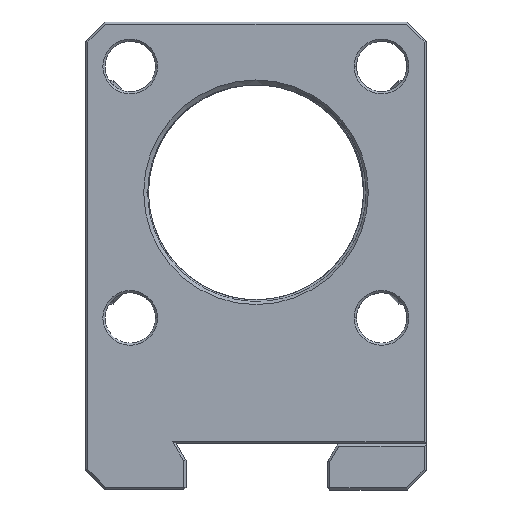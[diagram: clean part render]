
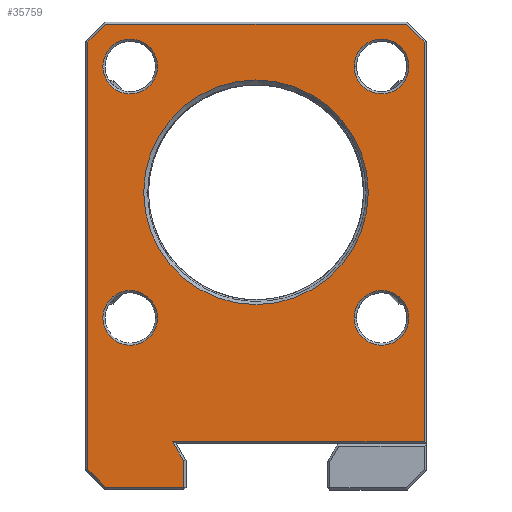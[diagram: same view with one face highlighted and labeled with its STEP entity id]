
A CAD part, top view. The second image highlights one B-rep face of the part: STEP entity #35759.
In plain terms, the highlighted planar face has unit normal (0, 0, 1).
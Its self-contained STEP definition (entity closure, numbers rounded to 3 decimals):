
#18627=DIRECTION('',(0.,1.,0.));
#18628=VECTOR('',#18627,50.999);
#18629=CARTESIAN_POINT('',(-34.514,-19.874,
16.382));
#18630=LINE('',#18629,#18628);
#18639=DIRECTION('',(0.707,-0.707,0.));
#18640=VECTOR('',#18639,3.022);
#18641=CARTESIAN_POINT('',(-34.514,-19.874,
16.382));
#18642=LINE('',#18641,#18640);
#18643=DIRECTION('',(-0.707,-0.707,0.));
#18644=VECTOR('',#18643,3.022);
#18645=CARTESIAN_POINT('',(-32.376,33.262,
16.382));
#18646=LINE('',#18645,#18644);
#18647=DIRECTION('',(-0.707,0.707,0.));
#18648=VECTOR('',#18647,3.022);
#18649=CARTESIAN_POINT('',(5.618,31.125,16.382));
#18650=LINE('',#18649,#18648);
#18651=DIRECTION('',(-0.5,0.866,0.));
#18652=VECTOR('',#18651,2.718);
#18653=CARTESIAN_POINT('',(-23.053,-18.904,
16.382));
#18654=LINE('',#18653,#18652);
#18655=CARTESIAN_POINT('',(0.541,-1.792,
16.382));
#18656=DIRECTION('',(0.,0.,-1.));
#18657=DIRECTION('',(1.,0.,0.));
#18658=AXIS2_PLACEMENT_3D('',#18655,#18656,#18657);
#18660=CARTESIAN_POINT('',(0.541,-1.792,
16.382));
#18661=DIRECTION('',(0.,0.,-1.));
#18662=DIRECTION('',(-1.,0.,0.));
#18663=AXIS2_PLACEMENT_3D('',#18660,#18661,#18662);
#18665=CARTESIAN_POINT('',(-29.459,-1.792,
16.382));
#18666=DIRECTION('',(0.,0.,-1.));
#18667=DIRECTION('',(1.,0.,0.));
#18668=AXIS2_PLACEMENT_3D('',#18665,#18666,#18667);
#18670=CARTESIAN_POINT('',(-29.459,-1.792,
16.382));
#18671=DIRECTION('',(0.,0.,-1.));
#18672=DIRECTION('',(-1.,0.,0.));
#18673=AXIS2_PLACEMENT_3D('',#18670,#18671,#18672);
#18675=CARTESIAN_POINT('',(-29.459,28.208,
16.382));
#18676=DIRECTION('',(0.,0.,-1.));
#18677=DIRECTION('',(1.,0.,0.));
#18678=AXIS2_PLACEMENT_3D('',#18675,#18676,#18677);
#18680=CARTESIAN_POINT('',(-29.459,28.208,
16.382));
#18681=DIRECTION('',(0.,0.,-1.));
#18682=DIRECTION('',(-1.,0.,0.));
#18683=AXIS2_PLACEMENT_3D('',#18680,#18681,#18682);
#18685=CARTESIAN_POINT('',(0.541,28.208,
16.382));
#18686=DIRECTION('',(0.,0.,-1.));
#18687=DIRECTION('',(1.,0.,0.));
#18688=AXIS2_PLACEMENT_3D('',#18685,#18686,#18687);
#18690=CARTESIAN_POINT('',(0.541,28.208,
16.382));
#18691=DIRECTION('',(0.,0.,-1.));
#18692=DIRECTION('',(-1.,0.,0.));
#18693=AXIS2_PLACEMENT_3D('',#18690,#18691,#18692);
#18695=CARTESIAN_POINT('',(-14.448,13.196,
16.382));
#18696=DIRECTION('',(0.,0.,-1.));
#18697=DIRECTION('',(1.,0.,0.));
#18698=AXIS2_PLACEMENT_3D('',#18695,#18696,#18697);
#18700=CARTESIAN_POINT('',(-14.448,13.196,
16.382));
#18701=DIRECTION('',(0.,0.,-1.));
#18702=DIRECTION('',(-1.,0.,0.));
#18703=AXIS2_PLACEMENT_3D('',#18700,#18701,#18702);
#18705=DIRECTION('',(0.,-1.,0.));
#18706=VECTOR('',#18705,3.107);
#18707=CARTESIAN_POINT('',(-23.053,-18.904,
16.382));
#18708=LINE('',#18707,#18706);
#18729=DIRECTION('',(-1.,0.,0.));
#18730=VECTOR('',#18729,9.323);
#18731=CARTESIAN_POINT('',(-23.053,-22.011,
16.382));
#18732=LINE('',#18731,#18730);
#18749=DIRECTION('',(-1.,0.,0.));
#18750=VECTOR('',#18749,30.031);
#18751=CARTESIAN_POINT('',(5.618,-16.55,
16.382));
#18752=LINE('',#18751,#18750);
#18761=DIRECTION('',(0.,-1.,0.));
#18762=VECTOR('',#18761,47.675);
#18763=CARTESIAN_POINT('',(5.618,31.125,16.382));
#18764=LINE('',#18763,#18762);
#18781=DIRECTION('',(1.,0.,0.));
#18782=VECTOR('',#18781,35.858);
#18783=CARTESIAN_POINT('',(-32.376,33.262,
16.382));
#18784=LINE('',#18783,#18782);
#34209=CARTESIAN_POINT('',(-27.846,13.196,
16.382));
#34210=CARTESIAN_POINT('',(-1.049,13.196,
16.382));
#34211=VERTEX_POINT('',#34209);
#34212=VERTEX_POINT('',#34210);
#34217=CARTESIAN_POINT('',(5.618,-16.55,
16.382));
#34218=CARTESIAN_POINT('',(-24.412,-16.55,
16.382));
#34219=VERTEX_POINT('',#34217);
#34220=VERTEX_POINT('',#34218);
#34227=CARTESIAN_POINT('',(-2.723,28.208,
16.382));
#34228=CARTESIAN_POINT('',(3.805,28.208,16.382));
#34229=VERTEX_POINT('',#34227);
#34230=VERTEX_POINT('',#34228);
#34255=CARTESIAN_POINT('',(5.618,31.125,16.382));
#34256=VERTEX_POINT('',#34255);
#34271=CARTESIAN_POINT('',(-2.723,-1.792,
16.382));
#34273=VERTEX_POINT('',#34271);
#34293=CARTESIAN_POINT('',(-34.514,31.125,
16.382));
#34295=VERTEX_POINT('',#34293);
#34313=CARTESIAN_POINT('',(-32.723,28.208,
16.382));
#34314=VERTEX_POINT('',#34313);
#34331=CARTESIAN_POINT('',(3.481,33.262,16.382));
#34332=VERTEX_POINT('',#34331);
#34341=CARTESIAN_POINT('',(3.805,-1.792,
16.382));
#34342=VERTEX_POINT('',#34341);
#34343=CARTESIAN_POINT('',(-26.195,28.208,
16.382));
#34345=VERTEX_POINT('',#34343);
#34361=CARTESIAN_POINT('',(-32.376,33.262,
16.382));
#34362=VERTEX_POINT('',#34361);
#34363=CARTESIAN_POINT('',(-23.053,-18.904,
16.382));
#34364=CARTESIAN_POINT('',(-23.053,-22.011,
16.382));
#34365=VERTEX_POINT('',#34363);
#34366=VERTEX_POINT('',#34364);
#34367=CARTESIAN_POINT('',(-32.376,-22.011,
16.382));
#34368=VERTEX_POINT('',#34367);
#34397=CARTESIAN_POINT('',(-26.195,-1.792,
16.382));
#34398=CARTESIAN_POINT('',(-32.723,-1.792,
16.382));
#34399=VERTEX_POINT('',#34397);
#34400=VERTEX_POINT('',#34398);
#34401=CARTESIAN_POINT('',(-34.514,-19.874,
16.382));
#34402=VERTEX_POINT('',#34401);
#35704=CARTESIAN_POINT('',(-14.448,13.196,
16.382));
#35705=DIRECTION('',(0.,0.,1.));
#35706=DIRECTION('',(1.,0.,0.));
#35707=AXIS2_PLACEMENT_3D('',#35704,#35705,#35706);
#35708=PLANE('',#35707);
#35710=ORIENTED_EDGE('',*,*,#35709,.T.);
#35712=ORIENTED_EDGE('',*,*,#35711,.T.);
#35713=ORIENTED_EDGE('',*,*,#35696,.F.);
#35714=ORIENTED_EDGE('',*,*,#35685,.T.);
#35716=ORIENTED_EDGE('',*,*,#35715,.F.);
#35718=ORIENTED_EDGE('',*,*,#35717,.T.);
#35720=ORIENTED_EDGE('',*,*,#35719,.F.);
#35722=ORIENTED_EDGE('',*,*,#35721,.T.);
#35724=ORIENTED_EDGE('',*,*,#35723,.T.);
#35726=ORIENTED_EDGE('',*,*,#35725,.F.);
#35727=EDGE_LOOP('',(#35710,#35712,#35713,#35714,#35716,#35718,#35720,#35722,
#35724,#35726));
#35728=FACE_OUTER_BOUND('',#35727,.F.);
#35730=ORIENTED_EDGE('',*,*,#35729,.F.);
#35732=ORIENTED_EDGE('',*,*,#35731,.F.);
#35733=EDGE_LOOP('',(#35730,#35732));
#35734=FACE_BOUND('',#35733,.F.);
#35736=ORIENTED_EDGE('',*,*,#35735,.F.);
#35738=ORIENTED_EDGE('',*,*,#35737,.F.);
#35739=EDGE_LOOP('',(#35736,#35738));
#35740=FACE_BOUND('',#35739,.F.);
#35742=ORIENTED_EDGE('',*,*,#35741,.F.);
#35744=ORIENTED_EDGE('',*,*,#35743,.F.);
#35745=EDGE_LOOP('',(#35742,#35744));
#35746=FACE_BOUND('',#35745,.F.);
#35748=ORIENTED_EDGE('',*,*,#35747,.F.);
#35750=ORIENTED_EDGE('',*,*,#35749,.F.);
#35751=EDGE_LOOP('',(#35748,#35750));
#35752=FACE_BOUND('',#35751,.F.);
#35754=ORIENTED_EDGE('',*,*,#35753,.F.);
#35756=ORIENTED_EDGE('',*,*,#35755,.F.);
#35757=EDGE_LOOP('',(#35754,#35756));
#35758=FACE_BOUND('',#35757,.F.);
#35759=ADVANCED_FACE('',(#35728,#35734,#35740,#35746,#35752,#35758),#35708,.T.);
#18659=CIRCLE('',#18658,3.264);
#18664=CIRCLE('',#18663,3.264);
#18669=CIRCLE('',#18668,3.264);
#18674=CIRCLE('',#18673,3.264);
#18679=CIRCLE('',#18678,3.264);
#18684=CIRCLE('',#18683,3.264);
#18689=CIRCLE('',#18688,3.264);
#18694=CIRCLE('',#18693,3.264);
#18699=CIRCLE('',#18698,13.399);
#18704=CIRCLE('',#18703,13.399);
#35685=EDGE_CURVE('',#34402,#34295,#18630,.T.);
#35696=EDGE_CURVE('',#34402,#34368,#18642,.T.);
#35709=EDGE_CURVE('',#34365,#34366,#18708,.T.);
#35711=EDGE_CURVE('',#34366,#34368,#18732,.T.);
#35715=EDGE_CURVE('',#34362,#34295,#18646,.T.);
#35717=EDGE_CURVE('',#34362,#34332,#18784,.T.);
#35719=EDGE_CURVE('',#34256,#34332,#18650,.T.);
#35721=EDGE_CURVE('',#34256,#34219,#18764,.T.);
#35723=EDGE_CURVE('',#34219,#34220,#18752,.T.);
#35725=EDGE_CURVE('',#34365,#34220,#18654,.T.);
#35729=EDGE_CURVE('',#34342,#34273,#18659,.T.);
#35731=EDGE_CURVE('',#34273,#34342,#18664,.T.);
#35735=EDGE_CURVE('',#34399,#34400,#18669,.T.);
#35737=EDGE_CURVE('',#34400,#34399,#18674,.T.);
#35741=EDGE_CURVE('',#34345,#34314,#18679,.T.);
#35743=EDGE_CURVE('',#34314,#34345,#18684,.T.);
#35747=EDGE_CURVE('',#34230,#34229,#18689,.T.);
#35749=EDGE_CURVE('',#34229,#34230,#18694,.T.);
#35753=EDGE_CURVE('',#34212,#34211,#18699,.T.);
#35755=EDGE_CURVE('',#34211,#34212,#18704,.T.);
